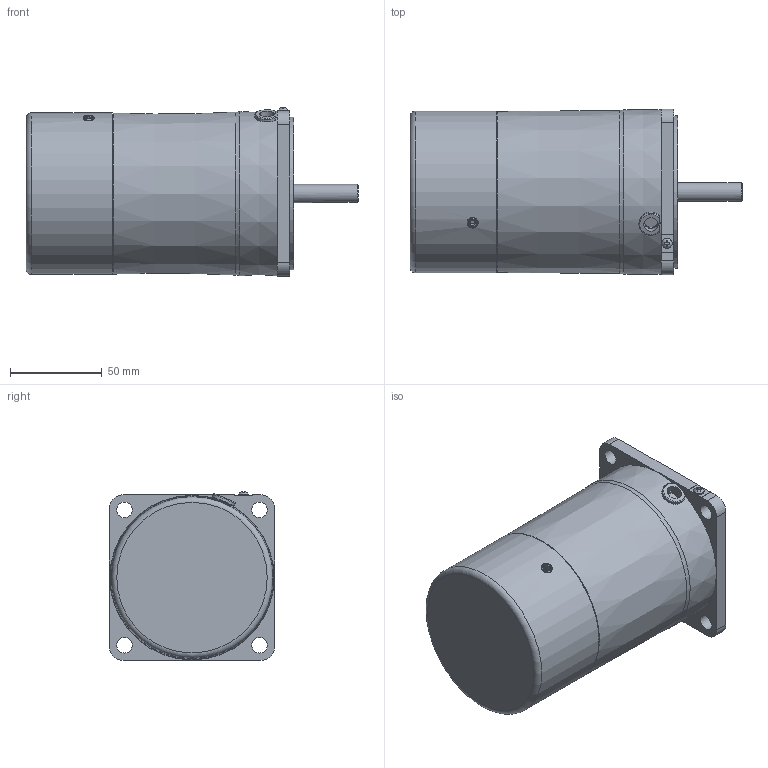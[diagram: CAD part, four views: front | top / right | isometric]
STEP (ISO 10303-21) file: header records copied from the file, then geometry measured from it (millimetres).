
FILE_DESCRIPTION(/* description */ (''),/* implementation_level */ '2;1');
FILE_NAME(/* name */ 'E:\도면작업\2016\0704) 미주향 SG 도면\3D MOTOR\ELECTROMAGNETIC BRAKE\SG9R(I)40K_-E.stp',/* time_stamp */ '2017-03-21T14:45:15+09:00',/* author */ ('jy-jung'),/* organization */ (''),/* preprocessor_version */ 'ST-DEVELOPER v15.6',/* originating_system */ 'Autodesk Inventor 2015',/* authorisation */ '');
FILE_SCHEMA (('AUTOMOTIVE_DESIGN { 1 0 10303 214 3 1 1 }'));
Length unit declared in the file: millimetre
Products named in the file (1): 부품23
Bounding box: 180.5 x 90 x 91.76 mm (x, y, z)
Volume: 883386.9 mm3; surface area: 61032.8 mm2
Topology: 1 solids, 2 shells, 109 faces, 279 edges, 189 vertices
Faces by surface type: plane 65, cylinder 34, torus 6, cone 3, bspline 1
Full cylindrical faces by diameter (mm): 3.1 x1, 4.6 x1, 5 x2, 5.6 x1, 6 x1, 8 x1, 8.5 x4, 10 x2, 40 x1, 83 x1, 86 x1, 87.8 x1
Entity records: 3434 total; most frequent: CARTESIAN_POINT 732, DIRECTION 525, ORIENTED_EDGE 486, EDGE_CURVE 243, AXIS2_PLACEMENT_3D 197, VERTEX_POINT 178, EDGE_LOOP 159, LINE 131
